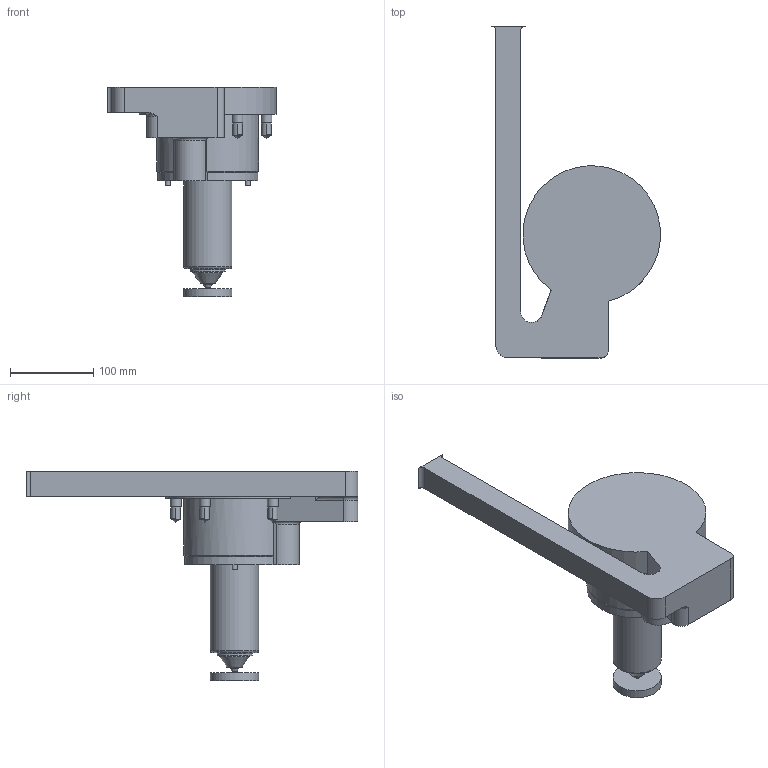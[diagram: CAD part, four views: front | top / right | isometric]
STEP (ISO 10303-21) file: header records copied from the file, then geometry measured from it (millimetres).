
FILE_DESCRIPTION( ( 'STEP AP214' ), '1' );
FILE_NAME( 'D:/PROIECTE_YUDO_2009/PROIECTE YUDO 3D/SAS/YUEU09-SAS42VC209_6/SAS42VC209_6_CutOut.step', '2009-04-24T09:07:13', ( ' ' ), ( ' ' ), 'XStep 1.0', ' ', ' ' );
FILE_SCHEMA( ( 'automotive_design' ) );
Length unit declared in the file: millimetre
Products named in the file (1): 1
Bounding box: 202.3 x 398 x 251.5 mm (x, y, z)
Volume: 2771898.1 mm3; surface area: 200396.7 mm2
Topology: 1 solids, 1 shells, 93 faces, 219 edges, 145 vertices
Faces by surface type: plane 41, cylinder 39, cone 9, torus 4
Full cylindrical faces by diameter (mm): 6 x3, 10.5 x1, 11.35 x5, 13 x5, 36 x1, 42 x1, 58 x2
Entity records: 3250 total; most frequent: CARTESIAN_POINT 471, DIRECTION 442, ORIENTED_EDGE 352, AXIS2_PLACEMENT_3D 180, EDGE_CURVE 176, EDGE_LOOP 138, VERTEX_POINT 135, FACE_OUTER_BOUND 113
